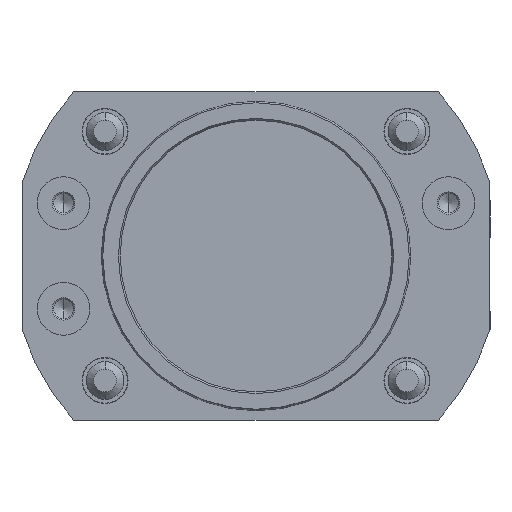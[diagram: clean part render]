
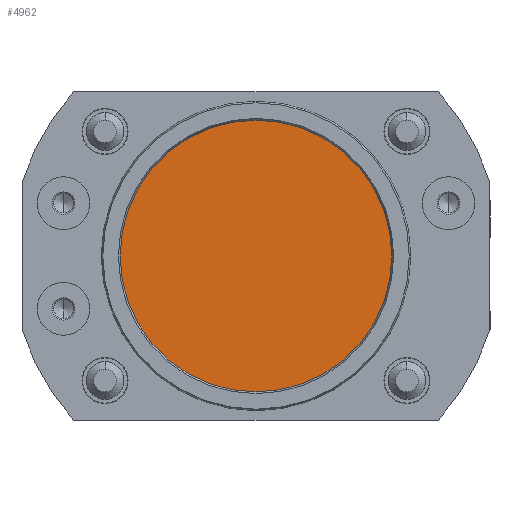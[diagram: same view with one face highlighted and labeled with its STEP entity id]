
A CAD part, front view. The second image highlights one B-rep face of the part: STEP entity #4962.
In plain terms, the highlighted planar face has unit normal (0, -1, 0).
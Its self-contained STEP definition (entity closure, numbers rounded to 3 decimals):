
#1379 = DIRECTION ( 'NONE',  ( 0., -1., 0. ) ) ;
#1380 = CARTESIAN_POINT ( 'NONE',  ( 0., 3., 0. ) ) ;
#1389 = DIRECTION ( 'NONE',  ( 0., 0., 1. ) ) ;
#1390 = DIRECTION ( 'NONE',  ( 0., 1., 0. ) ) ;
#1395 = PLANE ( 'NONE',  #1408 ) ;
#1396 = AXIS2_PLACEMENT_3D ( 'NONE', #1399, #1390, #1389 ) ;
#1399 = CARTESIAN_POINT ( 'NONE',  ( 0., 3., 0. ) ) ;
#1403 = CIRCLE ( 'NONE', #1396, 18. ) ;
#1404 = FACE_OUTER_BOUND ( 'NONE', #4983, .T. ) ;
#1408 = AXIS2_PLACEMENT_3D ( 'NONE', #1380, #1379, #1449 ) ;
#1449 = DIRECTION ( 'NONE',  ( 0., 0., -1. ) ) ;
#4936 = ORIENTED_EDGE ( 'NONE', *, *, #8991, .F. ) ;
#4954 = EDGE_CURVE ( 'NONE', #8996, #8984, #1403, .T. ) ;
#4958 = ORIENTED_EDGE ( 'NONE', *, *, #4954, .F. ) ;
#4962 = ADVANCED_FACE ( 'NONE', ( #1404 ), #1395, .T. ) ;
#4983 = EDGE_LOOP ( 'NONE', ( #4958, #4936 ) ) ;
#6169 = CARTESIAN_POINT ( 'NONE',  ( 0., 3., -18. ) ) ;
#6394 = DIRECTION ( 'NONE',  ( 0., 0., 1. ) ) ;
#6395 = DIRECTION ( 'NONE',  ( 0., 1., 0. ) ) ;
#6396 = AXIS2_PLACEMENT_3D ( 'NONE', #6403, #6395, #6394 ) ;
#6403 = CARTESIAN_POINT ( 'NONE',  ( 0., 3., 0. ) ) ;
#6405 = CARTESIAN_POINT ( 'NONE',  ( 0., 3., 18. ) ) ;
#6410 = CIRCLE ( 'NONE', #6396, 18. ) ;
#8984 = VERTEX_POINT ( 'NONE', #6169 ) ;
#8991 = EDGE_CURVE ( 'NONE', #8984, #8996, #6410, .T. ) ;
#8996 = VERTEX_POINT ( 'NONE', #6405 ) ;
